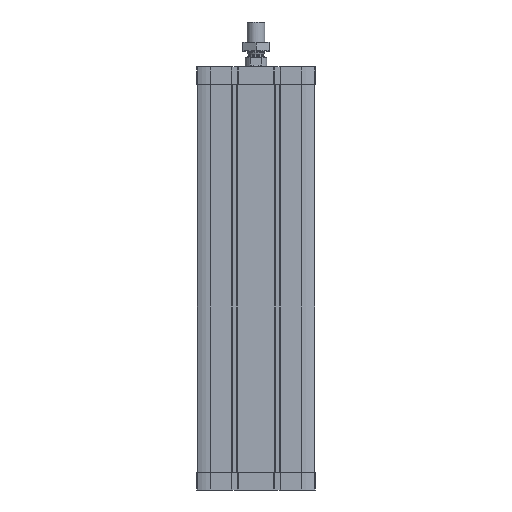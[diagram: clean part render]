
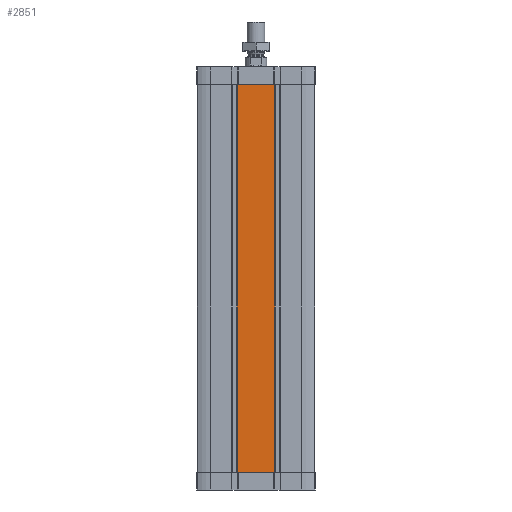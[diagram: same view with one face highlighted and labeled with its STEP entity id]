
A CAD part, front view. The second image highlights one B-rep face of the part: STEP entity #2851.
In plain terms, the highlighted planar face has unit normal (0, -1, 0).
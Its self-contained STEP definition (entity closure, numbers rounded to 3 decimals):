
#207 = DIRECTION ( 'NONE',  ( 1., 0., 0. ) ) ;
#588 = VERTEX_POINT ( 'NONE', #9959 ) ;
#677 = EDGE_CURVE ( 'NONE', #3430, #10701, #13174, .T. ) ;
#757 = VECTOR ( 'NONE', #4075, 1000. ) ;
#1823 = ORIENTED_EDGE ( 'NONE', *, *, #17518, .F. ) ;
#1949 = VECTOR ( 'NONE', #4397, 1000. ) ;
#2851 = ADVANCED_FACE ( 'NONE', ( #3935 ), #16514, .T. ) ;
#3403 = ORIENTED_EDGE ( 'NONE', *, *, #677, .T. ) ;
#3430 = VERTEX_POINT ( 'NONE', #17405 ) ;
#3740 = CARTESIAN_POINT ( 'NONE',  ( 20.687, -67., -20. ) ) ;
#3776 = ORIENTED_EDGE ( 'NONE', *, *, #11050, .T. ) ;
#3925 = CARTESIAN_POINT ( 'NONE',  ( -21.3, -67., -20. ) ) ;
#3935 = FACE_OUTER_BOUND ( 'NONE', #11527, .T. ) ;
#3952 = CARTESIAN_POINT ( 'NONE',  ( 20.687, -67., -461. ) ) ;
#3964 = CARTESIAN_POINT ( 'NONE',  ( -67., -67., -20. ) ) ;
#4075 = DIRECTION ( 'NONE',  ( 1., 0., 0. ) ) ;
#4136 = LINE ( 'NONE', #3964, #8057 ) ;
#4285 = CARTESIAN_POINT ( 'NONE',  ( 21.3, -67., -461. ) ) ;
#4372 = LINE ( 'NONE', #4285, #8852 ) ;
#4397 = DIRECTION ( 'NONE',  ( 0., 0., 1. ) ) ;
#4673 = LINE ( 'NONE', #8727, #1949 ) ;
#4764 = EDGE_CURVE ( 'NONE', #16565, #588, #16571, .T. ) ;
#6316 = ORIENTED_EDGE ( 'NONE', *, *, #15191, .F. ) ;
#6805 = ORIENTED_EDGE ( 'NONE', *, *, #14925, .F. ) ;
#8057 = VECTOR ( 'NONE', #207, 1000. ) ;
#8445 = CARTESIAN_POINT ( 'NONE',  ( -20.687, -67., -20. ) ) ;
#8471 = VECTOR ( 'NONE', #10225, 1000. ) ;
#8513 = DIRECTION ( 'NONE',  ( 0., 0., 1. ) ) ;
#8522 = CARTESIAN_POINT ( 'NONE',  ( -21.3, -67., -461. ) ) ;
#8727 = CARTESIAN_POINT ( 'NONE',  ( -21.3, -67., -461. ) ) ;
#8852 = VECTOR ( 'NONE', #8513, 1000. ) ;
#9541 = CARTESIAN_POINT ( 'NONE',  ( -67., -67., -461. ) ) ;
#9905 = CARTESIAN_POINT ( 'NONE',  ( -67., -67., -20. ) ) ;
#9959 = CARTESIAN_POINT ( 'NONE',  ( 21.3, -67., -461. ) ) ;
#10023 = AXIS2_PLACEMENT_3D ( 'NONE', #9541, #17621, #14883 ) ;
#10175 = VECTOR ( 'NONE', #15226, 1000. ) ;
#10225 = DIRECTION ( 'NONE',  ( 1., 0., 0. ) ) ;
#10701 = VERTEX_POINT ( 'NONE', #17162 ) ;
#10968 = CARTESIAN_POINT ( 'NONE',  ( -67., -67., -461. ) ) ;
#11050 = EDGE_CURVE ( 'NONE', #588, #12523, #4372, .T. ) ;
#11527 = EDGE_LOOP ( 'NONE', ( #6805, #3403, #11680, #14131, #3776, #6316, #1823, #16645 ) ) ;
#11600 = LINE ( 'NONE', #13165, #8471 ) ;
#11680 = ORIENTED_EDGE ( 'NONE', *, *, #15211, .T. ) ;
#12440 = VERTEX_POINT ( 'NONE', #3740 ) ;
#12523 = VERTEX_POINT ( 'NONE', #18050 ) ;
#12648 = LINE ( 'NONE', #9905, #10175 ) ;
#12804 = VECTOR ( 'NONE', #18147, 1000. ) ;
#13165 = CARTESIAN_POINT ( 'NONE',  ( -21.3, -67., -20. ) ) ;
#13174 = LINE ( 'NONE', #16202, #16802 ) ;
#13243 = EDGE_CURVE ( 'NONE', #15263, #15878, #4136, .T. ) ;
#14131 = ORIENTED_EDGE ( 'NONE', *, *, #4764, .T. ) ;
#14883 = DIRECTION ( 'NONE',  ( 0., 0., -1. ) ) ;
#14925 = EDGE_CURVE ( 'NONE', #3430, #15263, #4673, .T. ) ;
#15191 = EDGE_CURVE ( 'NONE', #12440, #12523, #12648, .T. ) ;
#15211 = EDGE_CURVE ( 'NONE', #10701, #16565, #16600, .T. ) ;
#15226 = DIRECTION ( 'NONE',  ( 1., 0., 0. ) ) ;
#15263 = VERTEX_POINT ( 'NONE', #3925 ) ;
#15878 = VERTEX_POINT ( 'NONE', #8445 ) ;
#16028 = DIRECTION ( 'NONE',  ( 1., 0., 0. ) ) ;
#16202 = CARTESIAN_POINT ( 'NONE',  ( -67., -67., -461. ) ) ;
#16514 = PLANE ( 'NONE',  #10023 ) ;
#16565 = VERTEX_POINT ( 'NONE', #3952 ) ;
#16571 = LINE ( 'NONE', #10968, #757 ) ;
#16600 = LINE ( 'NONE', #8522, #12804 ) ;
#16645 = ORIENTED_EDGE ( 'NONE', *, *, #13243, .F. ) ;
#16802 = VECTOR ( 'NONE', #16028, 1000. ) ;
#17162 = CARTESIAN_POINT ( 'NONE',  ( -20.687, -67., -461. ) ) ;
#17405 = CARTESIAN_POINT ( 'NONE',  ( -21.3, -67., -461. ) ) ;
#17518 = EDGE_CURVE ( 'NONE', #15878, #12440, #11600, .T. ) ;
#17621 = DIRECTION ( 'NONE',  ( 0., -1., 0. ) ) ;
#18050 = CARTESIAN_POINT ( 'NONE',  ( 21.3, -67., -20. ) ) ;
#18147 = DIRECTION ( 'NONE',  ( 1., 0., 0. ) ) ;
